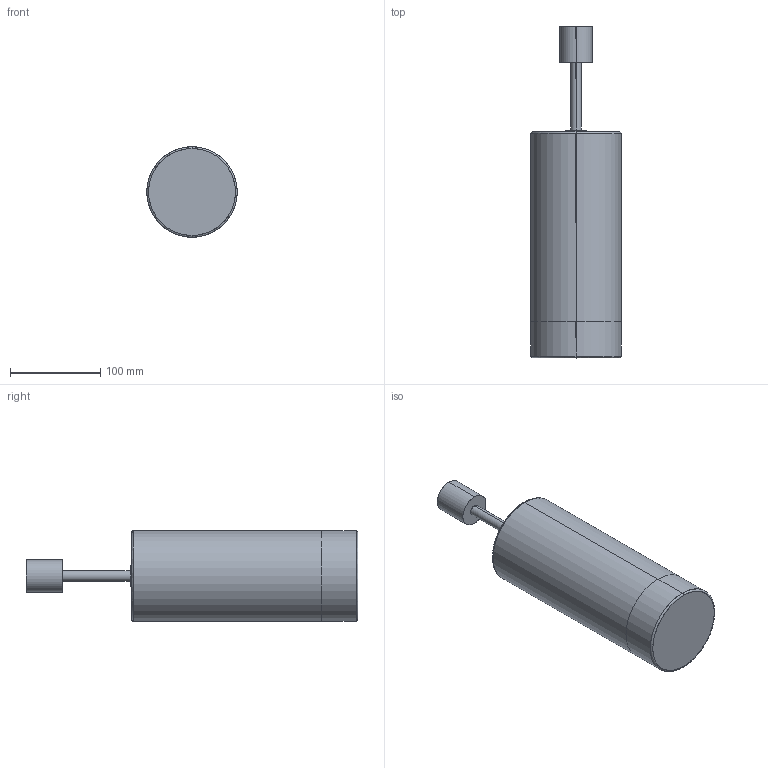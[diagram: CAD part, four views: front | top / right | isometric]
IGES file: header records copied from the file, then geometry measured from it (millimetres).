
Start section: SolidWorks IGES file using analytic representation for surfaces
Global section: file name: C:\Users\Agus\Desktop\AROMAS\Libreria modelos\S1107\S1107.IGS; native system: SolidWorks 2018; preprocessor: SolidWorks 2018; author: Agus; date: 180917.161304; units: millimetre
Bounding box: 100 x 367 x 100 mm (x, y, z)
Surface area: 102957 mm2 (no closed solid volume)
Topology: 0 solids, 0 shells, 19 faces, 440 edges, 440 vertices
Faces by surface type: revolution 10, bspline 9
